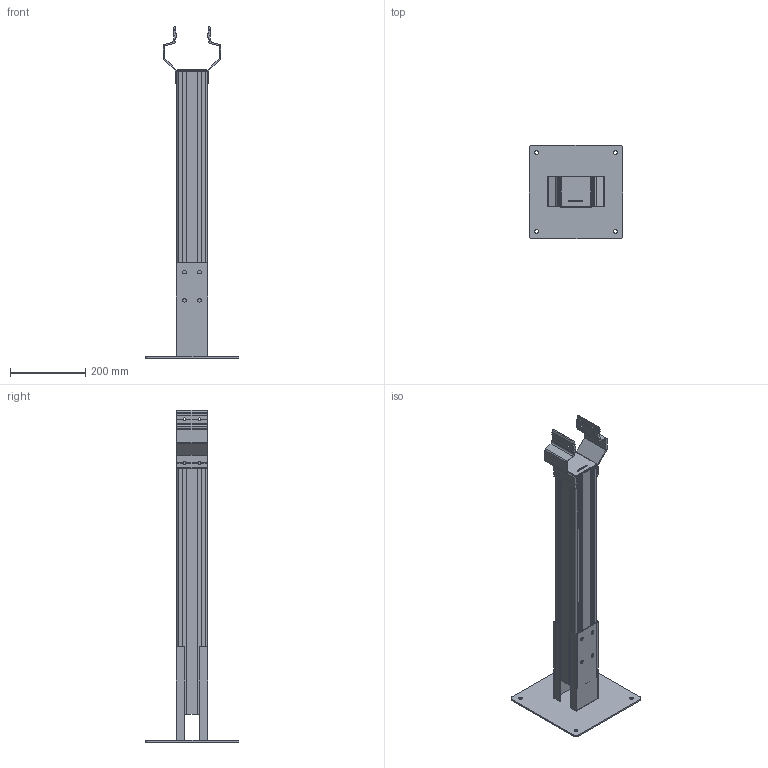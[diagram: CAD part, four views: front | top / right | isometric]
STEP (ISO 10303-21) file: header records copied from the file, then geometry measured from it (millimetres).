
FILE_DESCRIPTION((''),'2;1');
FILE_NAME('C:\Vault Klient\Projekt\Koncept konstruktion\Benstöd\100-1340.stp','2009-11-19T13:38:20',('Mathias'),(''),'Autodesk Inventor 2010','Autodesk Inventor 2010','');
FILE_SCHEMA(('AUTOMOTIVE_DESIGN { 1 0 10303 214 1 1 1 1 }'));
Length unit declared in the file: millimetre
Products named in the file (5): 100-1340; 100-1030-01; 100-1130; 100-1230; 100-2030
Assembly tree (5 placements, depth 2):
  100-1340
    100-1030-01
    100-1130
    100-1230  x2
    100-2030
Bounding box: 250 x 250 x 885 mm (x, y, z)
Volume: 3822016.2 mm3; surface area: 786658.8 mm2
Topology: 5 solids, 5 shells, 617 faces, 1788 edges, 1192 vertices
Faces by surface type: plane 427, cylinder 120, bspline 50, cone 16, torus 4
Entity records: 18715 total; most frequent: CARTESIAN_POINT 4025, ORIENTED_EDGE 3160, DIRECTION 2822, EDGE_CURVE 1580, VECTOR 1200, LINE 1200, VERTEX_POINT 1060, AXIS2_PLACEMENT_3D 811
